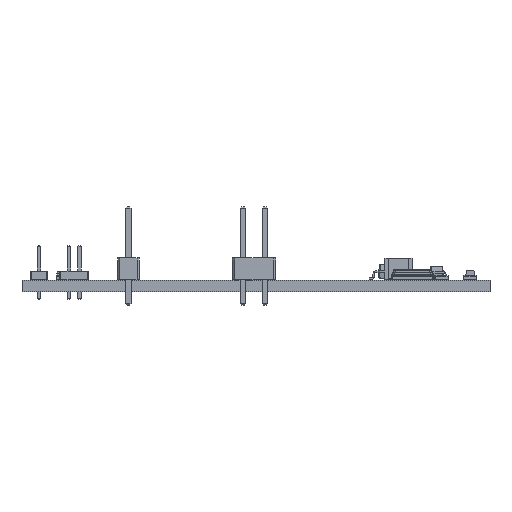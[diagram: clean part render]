
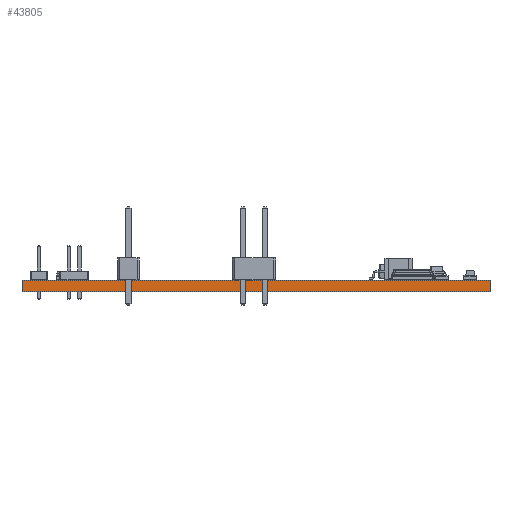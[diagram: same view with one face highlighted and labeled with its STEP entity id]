
A CAD part, front view. The second image highlights one B-rep face of the part: STEP entity #43805.
In plain terms, the highlighted planar face has unit normal (0, -1, 0).
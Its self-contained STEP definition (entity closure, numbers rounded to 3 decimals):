
#43805 = ADVANCED_FACE('',(#43806),#43840,.T.);
#43806 = FACE_BOUND('',#43807,.T.);
#43807 = EDGE_LOOP('',(#43808,#43818,#43826,#43834));
#43808 = ORIENTED_EDGE('',*,*,#43809,.T.);
#43809 = EDGE_CURVE('',#43810,#43812,#43814,.T.);
#43810 = VERTEX_POINT('',#43811);
#43811 = CARTESIAN_POINT('',(55.,-28.,0.));
#43812 = VERTEX_POINT('',#43813);
#43813 = CARTESIAN_POINT('',(55.,-28.,1.37));
#43814 = LINE('',#43815,#43816);
#43815 = CARTESIAN_POINT('',(55.,-28.,0.));
#43816 = VECTOR('',#43817,1.);
#43817 = DIRECTION('',(0.,0.,1.));
#43818 = ORIENTED_EDGE('',*,*,#43819,.T.);
#43819 = EDGE_CURVE('',#43812,#43820,#43822,.T.);
#43820 = VERTEX_POINT('',#43821);
#43821 = CARTESIAN_POINT('',(0.,-28.,1.37));
#43822 = LINE('',#43823,#43824);
#43823 = CARTESIAN_POINT('',(55.,-28.,1.37));
#43824 = VECTOR('',#43825,1.);
#43825 = DIRECTION('',(-1.,0.,0.));
#43826 = ORIENTED_EDGE('',*,*,#43827,.F.);
#43827 = EDGE_CURVE('',#43828,#43820,#43830,.T.);
#43828 = VERTEX_POINT('',#43829);
#43829 = CARTESIAN_POINT('',(0.,-28.,0.));
#43830 = LINE('',#43831,#43832);
#43831 = CARTESIAN_POINT('',(0.,-28.,0.));
#43832 = VECTOR('',#43833,1.);
#43833 = DIRECTION('',(0.,0.,1.));
#43834 = ORIENTED_EDGE('',*,*,#43835,.F.);
#43835 = EDGE_CURVE('',#43810,#43828,#43836,.T.);
#43836 = LINE('',#43837,#43838);
#43837 = CARTESIAN_POINT('',(55.,-28.,0.));
#43838 = VECTOR('',#43839,1.);
#43839 = DIRECTION('',(-1.,0.,0.));
#43840 = PLANE('',#43841);
#43841 = AXIS2_PLACEMENT_3D('',#43842,#43843,#43844);
#43842 = CARTESIAN_POINT('',(55.,-28.,0.));
#43843 = DIRECTION('',(0.,-1.,0.));
#43844 = DIRECTION('',(-1.,0.,0.));
